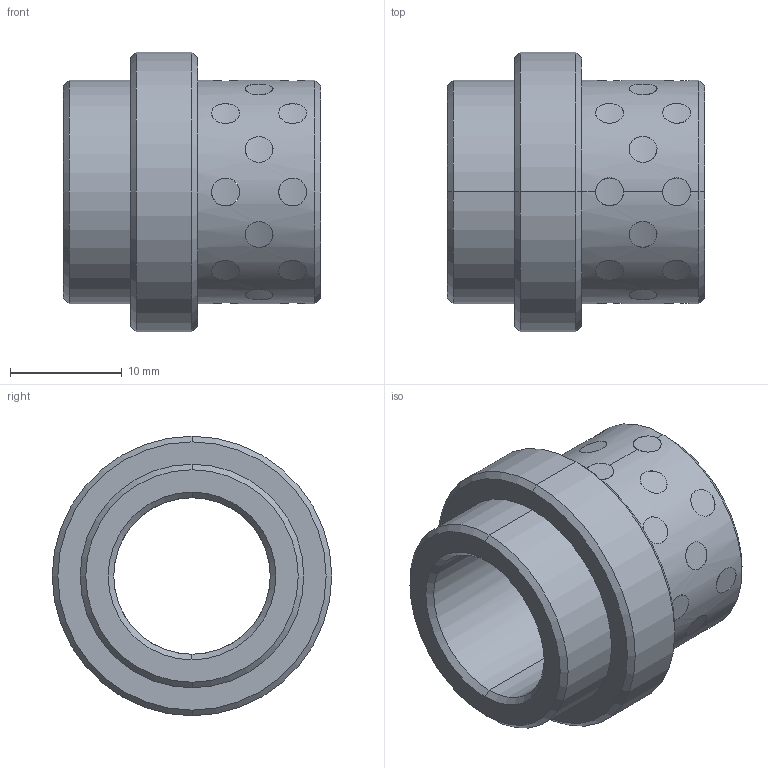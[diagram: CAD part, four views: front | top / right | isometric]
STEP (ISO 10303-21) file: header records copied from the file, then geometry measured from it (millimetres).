
FILE_DESCRIPTION((''),'2;1');
FILE_NAME('G31214017','2017-12-30T',('MANU'),(''),'PRO/ENGINEER BY PARAMETRIC TECHNOLOGY CORPORATION, 2012130','PRO/ENGINEER BY PARAMETRIC TECHNOLOGY CORPORATION, 2012130','');
FILE_SCHEMA(('CONFIG_CONTROL_DESIGN'));
Length unit declared in the file: millimetre
Products named in the file (1): G31214017
Bounding box: 23 x 25 x 25 mm (x, y, z)
Volume: 4695.1 mm3; surface area: 4246.7 mm2
Topology: 25 solids, 25 shells, 168 faces, 360 edges, 236 vertices
Faces by surface type: cylinder 152, cone 12, plane 4
Entity records: 7070 total; most frequent: CARTESIAN_POINT 3704, ORIENTED_EDGE 720, DIRECTION 516, EDGE_CURVE 360, VERTEX_POINT 236, EDGE_LOOP 212, B_SPLINE_CURVE_WITH_KNOTS 208, AXIS2_PLACEMENT_3D 196
